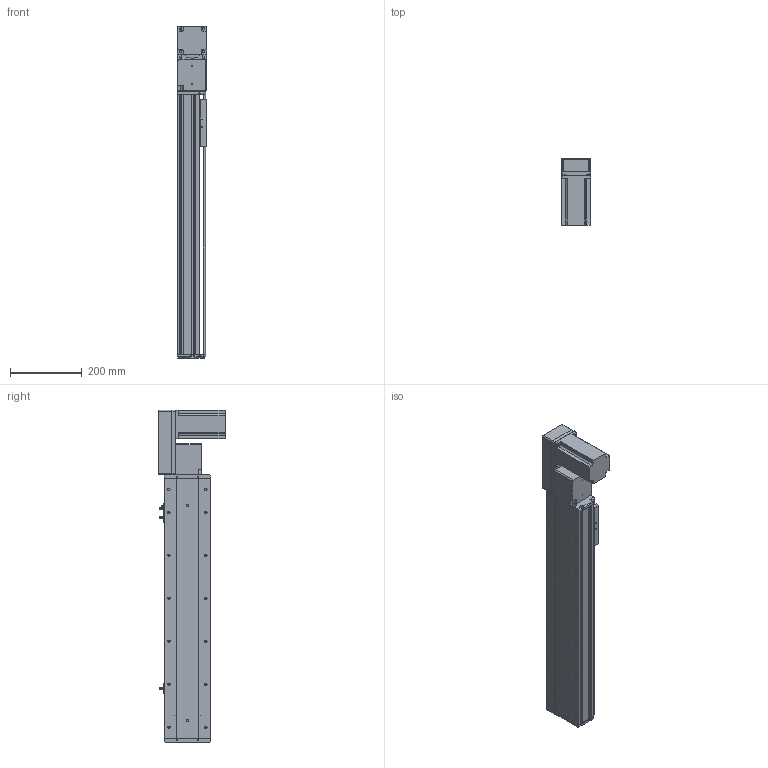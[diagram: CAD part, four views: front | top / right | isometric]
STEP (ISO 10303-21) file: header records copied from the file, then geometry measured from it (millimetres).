
FILE_DESCRIPTION (( 'STEP AP203' ), '1' );
FILE_NAME ('KSD130B-S500-MRB-CM .STEP', '2019-09-21T06:47:29', ( '微软用户' ), ( '微软中国' ), 'SwSTEP 2.0', 'SolidWorks 2014', '' );
FILE_SCHEMA (( 'CONFIG_CONTROL_DESIGN' ));
Length unit declared in the file: millimetre
Products named in the file (12): 130宽马达安装板同步带右-改镜向_默认<按加工>; 130宽盖板半封闭同步带-500行程; U倰嫖萇EEㄜSX672; 覜茼え100遵圉猾敕; 130宽模组马达安装板连板左右折同步带; 130宽底板半封闭同步带-500行程; 130宽模组保护罩上下左右折-同步带; 130宽端盖同步带半封闭; 台达ECMA－C20807AS伺服电机; 130宽同步带安装座半封闭; KSD130B-S500-MRB-CM ; 130宽马达安装板同步带半封闭
Assembly tree (13 placements, depth 2):
  KSD130B-S500-MRB-CM 
    130宽底板半封闭同步带-500行程
    130宽端盖同步带半封闭
    130宽同步带安装座半封闭
    130宽马达安装板同步带半封闭
    130宽马达安装板同步带右-改镜向_默认<按加工>
    130宽盖板半封闭同步带-500行程
    U倰嫖萇EEㄜSX672  x3
    覜茼え100遵圉猾敕
    130宽模组马达安装板连板左右折同步带
    130宽模组保护罩上下左右折-同步带
    台达ECMA－C20807AS伺服电机
Bounding box: 81 x 184.8 x 927 mm (x, y, z)
Volume: 3638808.2 mm3; surface area: 948051.5 mm2
Topology: 14 solids, 14 shells, 1419 faces, 4001 edges, 2571 vertices
Faces by surface type: cylinder 666, plane 610, cone 143
Entity records: 41953 total; most frequent: CARTESIAN_POINT 8204, DIRECTION 6979, ORIENTED_EDGE 6702, EDGE_CURVE 3351, AXIS2_PLACEMENT_3D 2526, VERTEX_POINT 2195, LINE 1927, VECTOR 1927
